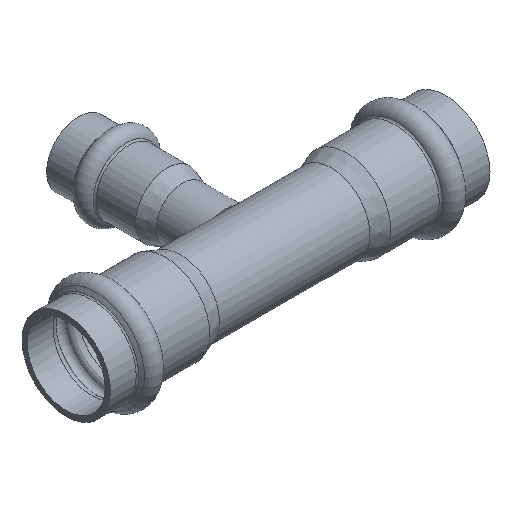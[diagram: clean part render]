
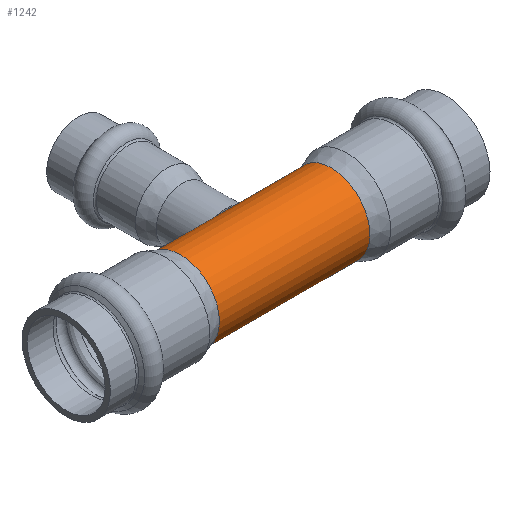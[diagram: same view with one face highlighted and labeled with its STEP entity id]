
A CAD part, isometric view. The second image highlights one B-rep face of the part: STEP entity #1242.
In plain terms, the highlighted cylindrical face has radius 11 mm (diameter 22 mm), a full revolution.
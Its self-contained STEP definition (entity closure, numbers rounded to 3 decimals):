
#192=CARTESIAN_POINT('',(0.,9.526,5.5));
#193=VERTEX_POINT('',#192);
#194=CARTESIAN_POINT('',(0.,9.526,5.5));
#195=CARTESIAN_POINT('',(-0.564,9.526,5.5));
#196=CARTESIAN_POINT('',(-1.151,9.58,5.41));
#197=CARTESIAN_POINT('',(-1.708,9.678,5.228));
#198=CARTESIAN_POINT('',(-2.335,9.789,5.023));
#199=CARTESIAN_POINT('',(-2.923,9.954,4.702));
#200=CARTESIAN_POINT('',(-3.42,10.122,4.307));
#201=CARTESIAN_POINT('',(-3.607,10.185,4.159));
#202=CARTESIAN_POINT('',(-3.78,10.248,4.002));
#203=CARTESIAN_POINT('',(-3.941,10.309,3.836));
#204=CARTESIAN_POINT('',(-4.358,10.469,3.408));
#205=CARTESIAN_POINT('',(-4.727,10.632,2.883));
#206=CARTESIAN_POINT('',(-4.995,10.756,2.303));
#207=CARTESIAN_POINT('',(-5.246,10.873,1.758));
#208=CARTESIAN_POINT('',(-5.408,10.954,1.164));
#209=CARTESIAN_POINT('',(-5.47,10.985,0.576));
#210=CARTESIAN_POINT('',(-5.509,11.005,0.2));
#211=CARTESIAN_POINT('',(-5.51,11.005,-0.167));
#212=CARTESIAN_POINT('',(-5.473,10.987,-0.543));
#213=CARTESIAN_POINT('',(-5.413,10.957,-1.15));
#214=CARTESIAN_POINT('',(-5.246,10.873,-1.765));
#215=CARTESIAN_POINT('',(-4.984,10.751,-2.326));
#216=CARTESIAN_POINT('',(-4.721,10.63,-2.888));
#217=CARTESIAN_POINT('',(-4.364,10.472,-3.398));
#218=CARTESIAN_POINT('',(-3.96,10.317,-3.816));
#219=CARTESIAN_POINT('',(-3.809,10.258,-3.974));
#220=CARTESIAN_POINT('',(-3.648,10.199,-4.122));
#221=CARTESIAN_POINT('',(-3.474,10.14,-4.264));
#222=CARTESIAN_POINT('',(-2.993,9.975,-4.656));
#223=CARTESIAN_POINT('',(-2.423,9.811,-4.979));
#224=CARTESIAN_POINT('',(-1.813,9.697,-5.192));
#225=CARTESIAN_POINT('',(-1.316,9.604,-5.366));
#226=CARTESIAN_POINT('',(-0.791,9.545,-5.467));
#227=CARTESIAN_POINT('',(-0.279,9.53,-5.493));
#228=CARTESIAN_POINT('',(-0.005,9.522,-5.507));
#229=CARTESIAN_POINT('',(0.265,9.526,-5.501));
#230=CARTESIAN_POINT('',(0.541,9.542,-5.473));
#231=CARTESIAN_POINT('',(1.132,9.575,-5.415));
#232=CARTESIAN_POINT('',(1.728,9.667,-5.256));
#233=CARTESIAN_POINT('',(2.276,9.794,-5.007));
#234=CARTESIAN_POINT('',(2.836,9.924,-4.753));
#235=CARTESIAN_POINT('',(3.346,10.089,-4.404));
#236=CARTESIAN_POINT('',(3.768,10.245,-4.006));
#237=CARTESIAN_POINT('',(3.928,10.303,-3.856));
#238=CARTESIAN_POINT('',(4.076,10.361,-3.699));
#239=CARTESIAN_POINT('',(4.219,10.419,-3.528));
#240=CARTESIAN_POINT('',(4.602,10.574,-3.071));
#241=CARTESIAN_POINT('',(4.925,10.722,-2.528));
#242=CARTESIAN_POINT('',(5.145,10.827,-1.943));
#243=CARTESIAN_POINT('',(5.346,10.922,-1.412));
#244=CARTESIAN_POINT('',(5.463,10.981,-0.845));
#245=CARTESIAN_POINT('',(5.492,10.996,-0.293));
#246=CARTESIAN_POINT('',(5.507,11.003,-0.022));
#247=CARTESIAN_POINT('',(5.501,11.001,0.244));
#248=CARTESIAN_POINT('',(5.476,10.988,0.516));
#249=CARTESIAN_POINT('',(5.42,10.96,1.108));
#250=CARTESIAN_POINT('',(5.263,10.881,1.708));
#251=CARTESIAN_POINT('',(5.015,10.765,2.259));
#252=CARTESIAN_POINT('',(4.752,10.643,2.843));
#253=CARTESIAN_POINT('',(4.385,10.48,3.373));
#254=CARTESIAN_POINT('',(3.97,10.321,3.806));
#255=CARTESIAN_POINT('',(3.829,10.266,3.954));
#256=CARTESIAN_POINT('',(3.68,10.211,4.093));
#257=CARTESIAN_POINT('',(3.52,10.156,4.226));
#258=CARTESIAN_POINT('',(3.045,9.991,4.621));
#259=CARTESIAN_POINT('',(2.482,9.826,4.95));
#260=CARTESIAN_POINT('',(1.876,9.709,5.17));
#261=CARTESIAN_POINT('',(1.333,9.604,5.367));
#262=CARTESIAN_POINT('',(0.755,9.54,5.477));
#263=CARTESIAN_POINT('',(0.195,9.528,5.497));
#264=CARTESIAN_POINT('',(0.13,9.527,5.499));
#265=CARTESIAN_POINT('',(0.065,9.526,5.5));
#266=CARTESIAN_POINT('',(0.,9.526,5.5));
#267=B_SPLINE_CURVE_WITH_KNOTS('',3,(#194,#195,#196,#197,#198,#199,#200,#201,#202,#203,#204,#205,#206,#207,#208,#209,#210,#211,#212,#213,#214,#215,#216,#217,#218,#219,#220,#221,#222,#223,#224,#225,#226,#227,#228,#229,#230,#231,#232,#233,#234,#235,#236,#237,#238,#239,#240,#241,#242,#243,#244,#245,#246,#247,#248,#249,#250,#251,#252,#253,#254,#255,#256,#257,#258,#259,#260,#261,#262,#263,#264,#265,#266),.UNSPECIFIED.,.T.,.U.,(4,3,3,3,3,3,3,3,3,3,3,3,3,3,3,3,3,3,3,3,3,3,3,3,4),(0.0,0.169,0.36,0.431,0.616,0.789,0.899,1.078,1.257,1.325,1.511,1.664,1.745,1.919,2.097,2.165,2.344,2.508,2.588,2.762,2.947,3.01,3.196,3.363,3.383),.UNSPECIFIED.);
#268=EDGE_CURVE('',#193,#193,#267,.T.);
#1205=CARTESIAN_POINT('',(-21.408,11.,0.0));
#1206=VERTEX_POINT('',#1205);
#1207=CARTESIAN_POINT('',(-21.408,0.,0.0));
#1208=DIRECTION('',(1.0,0.0,0.0));
#1209=DIRECTION('',(0.0,1.0,0.0));
#1210=AXIS2_PLACEMENT_3D('',#1207,#1208,#1209);
#1211=CIRCLE('',#1210,11.);
#1212=EDGE_CURVE('',#1206,#1206,#1211,.T.);
#1220=CARTESIAN_POINT('',(0.0,0.0,0.0));
#1221=DIRECTION('',(1.0,0.,0.0));
#1222=DIRECTION('',(0.0,1.0,0.0));
#1223=AXIS2_PLACEMENT_3D('',#1220,#1221,#1222);
#1224=CYLINDRICAL_SURFACE('',#1223,11.);
#1225=CARTESIAN_POINT('',(21.408,11.,0.0));
#1226=VERTEX_POINT('',#1225);
#1227=CARTESIAN_POINT('',(21.408,0.,0.0));
#1228=DIRECTION('',(1.0,0.0,0.0));
#1229=DIRECTION('',(0.0,1.0,0.0));
#1230=AXIS2_PLACEMENT_3D('',#1227,#1228,#1229);
#1231=CIRCLE('',#1230,11.);
#1232=EDGE_CURVE('',#1226,#1226,#1231,.T.);
#1233=ORIENTED_EDGE('',*,*,#1232,.F.);
#1234=EDGE_LOOP('',(#1233));
#1235=FACE_OUTER_BOUND('',#1234,.T.);
#1236=ORIENTED_EDGE('',*,*,#268,.T.);
#1237=EDGE_LOOP('',(#1236));
#1238=FACE_BOUND('',#1237,.T.);
#1239=ORIENTED_EDGE('',*,*,#1212,.T.);
#1240=EDGE_LOOP('',(#1239));
#1241=FACE_BOUND('',#1240,.T.);
#1242=ADVANCED_FACE('',(#1235,#1238,#1241),#1224,.T.);
